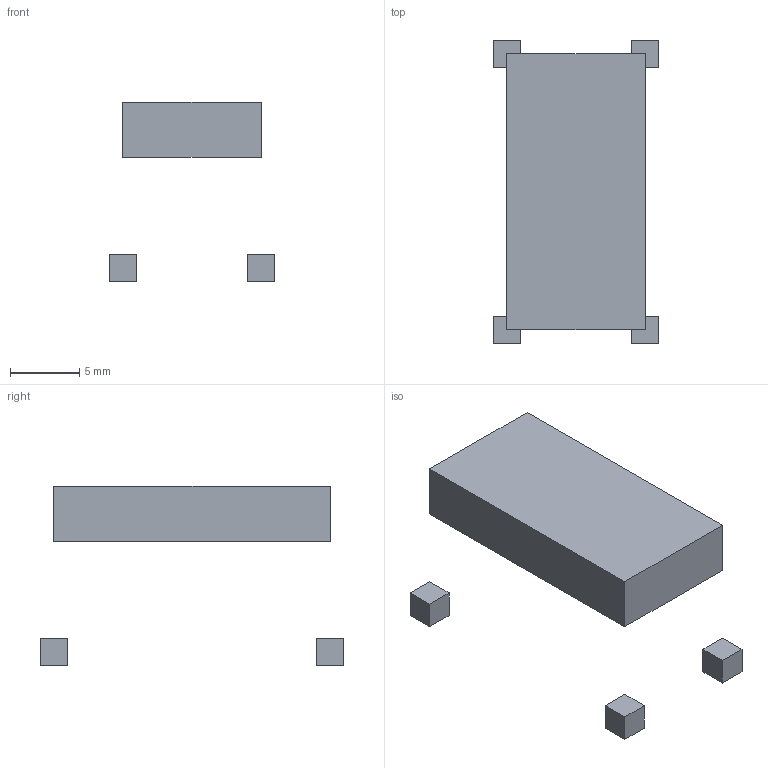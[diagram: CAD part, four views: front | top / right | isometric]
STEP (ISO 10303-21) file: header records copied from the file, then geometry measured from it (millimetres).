
FILE_DESCRIPTION(/* description */ ('Empty Shape Representation Sample File'),/* implementation_level */ '2;1');
FILE_NAME(/* name */ 'output_file',/* time_stamp */ '2013-07-02T16:13:34-04:00',/* author */ (''),/* organization */ (''),/* preprocessor_version */ 'ST-DEVELOPER v15.5',/* originating_system */ 'Geometry Demo',/* authorisation */ '');
FILE_SCHEMA (('AUTOMOTIVE_DESIGN'));
Length unit declared in the file: millimetre
Products named in the file (2): parent; chils
Assembly tree (4 placements, depth 2):
  parent
    chils  x4
Bounding box: 12 x 22 x 13 mm (x, y, z)
Volume: 832 mm3; surface area: 736 mm2
Topology: 5 solids, 5 shells, 30 faces, 60 edges, 40 vertices
Faces by surface type: plane 30
Entity records: 383 total; most frequent: DIRECTION 58, ORIENTED_EDGE 48, CARTESIAN_POINT 33, EDGE_CURVE 24, VECTOR 24, LINE 24, AXIS2_PLACEMENT_3D 17, VERTEX_POINT 16
